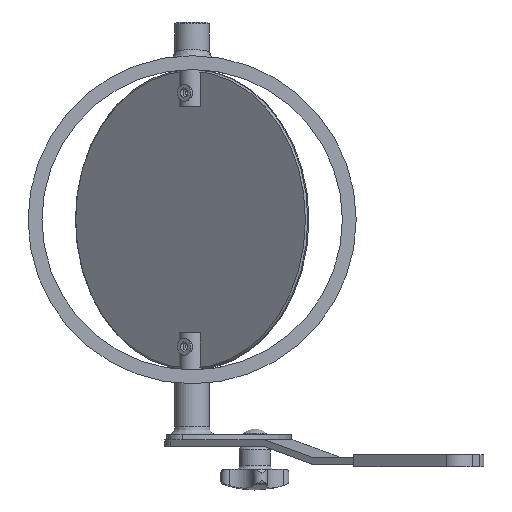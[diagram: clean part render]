
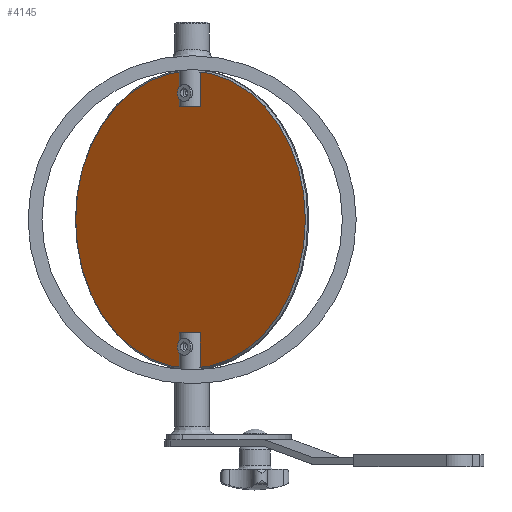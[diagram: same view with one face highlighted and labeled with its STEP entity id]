
A CAD part, front view. The second image highlights one B-rep face of the part: STEP entity #4145.
In plain terms, the highlighted planar face has unit normal (-0.634, -0.773, 0) as drawn and (0, 0, 1) by its records, which use the part's own axes.
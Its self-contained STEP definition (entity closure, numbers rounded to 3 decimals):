
#4072=CARTESIAN_POINT('',(116.557,0.,3.));
#4073=VERTEX_POINT('',#4072);
#4074=CARTESIAN_POINT('',(30.557,0.,3.));
#4075=DIRECTION('',(0.0,0.0,-1.0));
#4076=DIRECTION('',(-1.0,0.0,0.0));
#4077=AXIS2_PLACEMENT_3D('',#4074,#4075,#4076);
#4078=CIRCLE('',#4077,86.);
#4079=EDGE_CURVE('',#4073,#4073,#4078,.T.);
#4115=CARTESIAN_POINT('',(30.557,0.,3.));
#4116=DIRECTION('',(0.0,0.0,-1.0));
#4117=DIRECTION('',(-1.0,0.0,0.0));
#4118=AXIS2_PLACEMENT_3D('',#4115,#4116,#4117);
#4119=PLANE('',#4118);
#4120=ORIENTED_EDGE('',*,*,#4079,.F.);
#4121=EDGE_LOOP('',(#4120));
#4122=FACE_OUTER_BOUND('',#4121,.T.);
#4123=CARTESIAN_POINT('',(-39.943,0.,3.));
#4124=VERTEX_POINT('',#4123);
#4125=CARTESIAN_POINT('',(-42.943,0.,3.));
#4126=DIRECTION('',(0.0,0.0,-1.0));
#4127=DIRECTION('',(-1.0,0.0,0.0));
#4128=AXIS2_PLACEMENT_3D('',#4125,#4126,#4127);
#4129=CIRCLE('',#4128,3.);
#4130=EDGE_CURVE('',#4124,#4124,#4129,.T.);
#4131=ORIENTED_EDGE('',*,*,#4130,.T.);
#4132=EDGE_LOOP('',(#4131));
#4133=FACE_BOUND('',#4132,.T.);
#4134=CARTESIAN_POINT('',(107.057,0.,3.));
#4135=VERTEX_POINT('',#4134);
#4136=CARTESIAN_POINT('',(104.057,0.,3.));
#4137=DIRECTION('',(0.0,0.0,-1.0));
#4138=DIRECTION('',(-1.0,0.0,0.0));
#4139=AXIS2_PLACEMENT_3D('',#4136,#4137,#4138);
#4140=CIRCLE('',#4139,3.);
#4141=EDGE_CURVE('',#4135,#4135,#4140,.T.);
#4142=ORIENTED_EDGE('',*,*,#4141,.T.);
#4143=EDGE_LOOP('',(#4142));
#4144=FACE_BOUND('',#4143,.T.);
#4145=ADVANCED_FACE('',(#4122,#4133,#4144),#4119,.F.);
